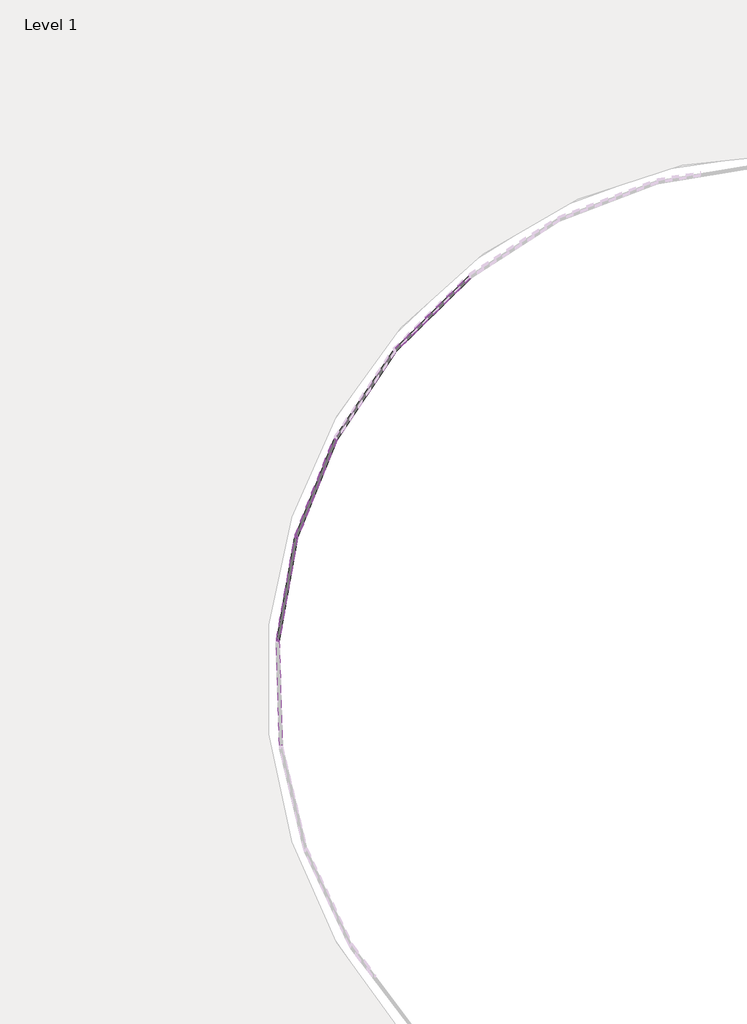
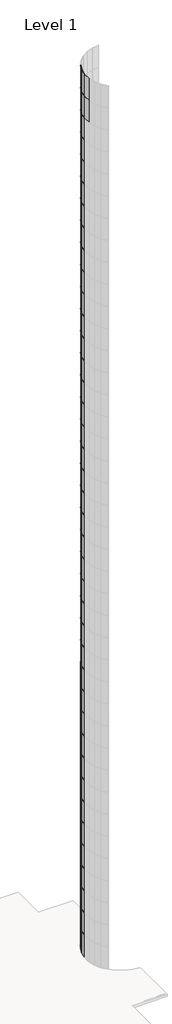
# One storey, part 12 of 19: 129 plates.
"""IFC4 building model written with IfcOpenShell, lengths in millimetres."""

from ifc_helpers import new_model, si_unit, origin, place, context, project, spatial, transform, mapped, element, save
from components import system_panel_glazed_d77d1ebf

model = new_model("IFC4")

# Units and contexts
model_context = context("Model", 3, world=origin())
ifc_project = project(units=[si_unit("LENGTHUNIT", "METRE", prefix="MILLI")], contexts=[model_context])

# Site, building, storey
site = spatial("IfcSite", under=ifc_project)
building = spatial("IfcBuilding", under=site)
storey = spatial("IfcBuildingStorey", under=building, Name="Level 1", Elevation=0.0)

# Plates
placement = place(None, origin())
system_panel_glazed_shape = system_panel_glazed_d77d1ebf(model_context)
element("IfcPlate", 1, ObjectType="System Panel : Glazed", at=placement, inside=storey, context=model_context, shape_type="MappedRepresentation", body=[
    mapped(system_panel_glazed_shape, transform((15654.787077, -3034.0456569, 0.0), x_axis=(-0.7128959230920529, -0.701269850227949, 0.0), y_axis=(0.701269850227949, -0.7128959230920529, 0.0), z_axis=(0.0, 0.0, 1.0))),
])
element("IfcPlate", 2, ObjectType="System Panel : Glazed", at=placement, inside=storey, context=model_context, shape_type="MappedRepresentation", body=[
    mapped(system_panel_glazed_shape, transform((15654.787077, -3034.0456569, 3048.0), x_axis=(-0.7128959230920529, -0.701269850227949, 0.0), y_axis=(0.701269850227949, -0.7128959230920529, 0.0), z_axis=(0.0, 0.0, 1.0))),
])
element("IfcPlate", 3, ObjectType="System Panel : Glazed", at=placement, inside=storey, context=model_context, shape_type="MappedRepresentation", body=[
    mapped(system_panel_glazed_shape, transform((15654.787077, -3034.0456569, 6096.0), x_axis=(-0.7128959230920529, -0.701269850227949, 0.0), y_axis=(0.701269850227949, -0.7128959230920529, 0.0), z_axis=(0.0, 0.0, 1.0))),
])
element("IfcPlate", 4, ObjectType="System Panel : Glazed", at=placement, inside=storey, context=model_context, shape_type="MappedRepresentation", body=[
    mapped(system_panel_glazed_shape, transform((15654.787077, -3034.0456569, 9144.0), x_axis=(-0.7128959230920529, -0.701269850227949, 0.0), y_axis=(0.701269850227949, -0.7128959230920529, 0.0), z_axis=(0.0, 0.0, 1.0))),
])
element("IfcPlate", 5, ObjectType="System Panel : Glazed", at=placement, inside=storey, context=model_context, shape_type="MappedRepresentation", body=[
    mapped(system_panel_glazed_shape, transform((15654.787077, -3034.0456569, 12192.0), x_axis=(-0.7128959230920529, -0.701269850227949, 0.0), y_axis=(0.701269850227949, -0.7128959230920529, 0.0), z_axis=(0.0, 0.0, 1.0))),
])
element("IfcPlate", 6, ObjectType="System Panel : Glazed", at=placement, inside=storey, context=model_context, shape_type="MappedRepresentation", body=[
    mapped(system_panel_glazed_shape, transform((15654.787077, -3034.0456569, 15240.0), x_axis=(-0.7128959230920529, -0.701269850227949, 0.0), y_axis=(0.701269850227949, -0.7128959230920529, 0.0), z_axis=(0.0, 0.0, 1.0))),
])
element("IfcPlate", 7, ObjectType="System Panel : Glazed", at=placement, inside=storey, context=model_context, shape_type="MappedRepresentation", body=[
    mapped(system_panel_glazed_shape, transform((15654.787077, -3034.0456569, 18288.0), x_axis=(-0.7128959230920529, -0.701269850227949, 0.0), y_axis=(0.701269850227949, -0.7128959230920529, 0.0), z_axis=(0.0, 0.0, 1.0))),
])
element("IfcPlate", 8, ObjectType="System Panel : Glazed", at=placement, inside=storey, context=model_context, shape_type="MappedRepresentation", body=[
    mapped(system_panel_glazed_shape, transform((15654.787077, -3034.0456569, 21336.0), x_axis=(-0.7128959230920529, -0.701269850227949, 0.0), y_axis=(0.701269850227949, -0.7128959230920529, 0.0), z_axis=(0.0, 0.0, 1.0))),
])
element("IfcPlate", 9, ObjectType="System Panel : Glazed", at=placement, inside=storey, context=model_context, shape_type="MappedRepresentation", body=[
    mapped(system_panel_glazed_shape, transform((15654.787077, -3034.0456569, 24384.0), x_axis=(-0.7128959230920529, -0.701269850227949, 0.0), y_axis=(0.701269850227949, -0.7128959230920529, 0.0), z_axis=(0.0, 0.0, 1.0))),
])
element("IfcPlate", 10, ObjectType="System Panel : Glazed", at=placement, inside=storey, context=model_context, shape_type="MappedRepresentation", body=[
    mapped(system_panel_glazed_shape, transform((15654.787077, -3034.0456569, 27432.0), x_axis=(-0.7128959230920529, -0.701269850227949, 0.0), y_axis=(0.701269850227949, -0.7128959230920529, 0.0), z_axis=(0.0, 0.0, 1.0))),
])
element("IfcPlate", 11, ObjectType="System Panel : Glazed", at=placement, inside=storey, context=model_context, shape_type="MappedRepresentation", body=[
    mapped(system_panel_glazed_shape, transform((15654.787077, -3034.0456569, 30480.0), x_axis=(-0.7128959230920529, -0.701269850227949, 0.0), y_axis=(0.701269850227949, -0.7128959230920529, 0.0), z_axis=(0.0, 0.0, 1.0))),
])
element("IfcPlate", 12, ObjectType="System Panel : Glazed", at=placement, inside=storey, context=model_context, shape_type="MappedRepresentation", body=[
    mapped(system_panel_glazed_shape, transform((15654.787077, -3034.0456569, 33528.0), x_axis=(-0.7128959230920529, -0.701269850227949, 0.0), y_axis=(0.701269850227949, -0.7128959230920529, 0.0), z_axis=(0.0, 0.0, 1.0))),
])
element("IfcPlate", 13, ObjectType="System Panel : Glazed", at=placement, inside=storey, context=model_context, shape_type="MappedRepresentation", body=[
    mapped(system_panel_glazed_shape, transform((15654.787077, -3034.0456569, 36576.0), x_axis=(-0.7128959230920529, -0.701269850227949, 0.0), y_axis=(0.701269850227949, -0.7128959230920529, 0.0), z_axis=(0.0, 0.0, 1.0))),
])
element("IfcPlate", 14, ObjectType="System Panel : Glazed", at=placement, inside=storey, context=model_context, shape_type="MappedRepresentation", body=[
    mapped(system_panel_glazed_shape, transform((15654.787077, -3034.0456569, 39624.0), x_axis=(-0.7128959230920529, -0.701269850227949, 0.0), y_axis=(0.701269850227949, -0.7128959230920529, 0.0), z_axis=(0.0, 0.0, 1.0))),
])
element("IfcPlate", 15, ObjectType="System Panel : Glazed", at=placement, inside=storey, context=model_context, shape_type="MappedRepresentation", body=[
    mapped(system_panel_glazed_shape, transform((15654.787077, -3034.0456569, 42672.0), x_axis=(-0.7128959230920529, -0.701269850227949, 0.0), y_axis=(0.701269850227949, -0.7128959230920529, 0.0), z_axis=(0.0, 0.0, 1.0))),
])
element("IfcPlate", 16, ObjectType="System Panel : Glazed", at=placement, inside=storey, context=model_context, shape_type="MappedRepresentation", body=[
    mapped(system_panel_glazed_shape, transform((15654.787077, -3034.0456569, 45720.0), x_axis=(-0.7128959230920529, -0.701269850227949, 0.0), y_axis=(0.701269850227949, -0.7128959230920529, 0.0), z_axis=(0.0, 0.0, 1.0))),
])
element("IfcPlate", 17, ObjectType="System Panel : Glazed", at=placement, inside=storey, context=model_context, shape_type="MappedRepresentation", body=[
    mapped(system_panel_glazed_shape, transform((15654.787077, -3034.0456569, 48768.0), x_axis=(-0.7128959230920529, -0.701269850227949, 0.0), y_axis=(0.701269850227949, -0.7128959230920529, 0.0), z_axis=(0.0, 0.0, 1.0))),
])
element("IfcPlate", 18, ObjectType="System Panel : Glazed", at=placement, inside=storey, context=model_context, shape_type="MappedRepresentation", body=[
    mapped(system_panel_glazed_shape, transform((15654.787077, -3034.0456569, 51816.0), x_axis=(-0.7128959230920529, -0.701269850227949, 0.0), y_axis=(0.701269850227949, -0.7128959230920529, 0.0), z_axis=(0.0, 0.0, 1.0))),
])
element("IfcPlate", 19, ObjectType="System Panel : Glazed", at=placement, inside=storey, context=model_context, shape_type="MappedRepresentation", body=[
    mapped(system_panel_glazed_shape, transform((15654.787077, -3034.0456569, 54864.0), x_axis=(-0.7128959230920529, -0.701269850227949, 0.0), y_axis=(0.701269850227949, -0.7128959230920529, 0.0), z_axis=(0.0, 0.0, 1.0))),
])
element("IfcPlate", 20, ObjectType="System Panel : Glazed", at=placement, inside=storey, context=model_context, shape_type="MappedRepresentation", body=[
    mapped(system_panel_glazed_shape, transform((15654.787077, -3034.0456569, 57912.0), x_axis=(-0.7128959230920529, -0.701269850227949, 0.0), y_axis=(0.701269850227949, -0.7128959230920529, 0.0), z_axis=(0.0, 0.0, 1.0))),
])
element("IfcPlate", 21, ObjectType="System Panel : Glazed", at=placement, inside=storey, context=model_context, shape_type="MappedRepresentation", body=[
    mapped(system_panel_glazed_shape, transform((15654.787077, -3034.0456569, 60960.0), x_axis=(-0.7128959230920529, -0.701269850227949, 0.0), y_axis=(0.701269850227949, -0.7128959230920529, 0.0), z_axis=(0.0, 0.0, 1.0))),
])
element("IfcPlate", 22, ObjectType="System Panel : Glazed", at=placement, inside=storey, context=model_context, shape_type="MappedRepresentation", body=[
    mapped(system_panel_glazed_shape, transform((15654.787077, -3034.0456569, 64008.0), x_axis=(-0.7128959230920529, -0.701269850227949, 0.0), y_axis=(0.701269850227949, -0.7128959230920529, 0.0), z_axis=(0.0, 0.0, 1.0))),
])
element("IfcPlate", 23, ObjectType="System Panel : Glazed", at=placement, inside=storey, context=model_context, shape_type="MappedRepresentation", body=[
    mapped(system_panel_glazed_shape, transform((15654.787077, -3034.0456569, 67056.0), x_axis=(-0.7128959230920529, -0.701269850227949, 0.0), y_axis=(0.701269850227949, -0.7128959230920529, 0.0), z_axis=(0.0, 0.0, 1.0))),
])
element("IfcPlate", 24, ObjectType="System Panel : Glazed", at=placement, inside=storey, context=model_context, shape_type="MappedRepresentation", body=[
    mapped(system_panel_glazed_shape, transform((15654.787077, -3034.0456569, 70104.0), x_axis=(-0.7128959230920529, -0.701269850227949, 0.0), y_axis=(0.701269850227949, -0.7128959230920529, 0.0), z_axis=(0.0, 0.0, 1.0))),
])
element("IfcPlate", 25, ObjectType="System Panel : Glazed", at=placement, inside=storey, context=model_context, shape_type="MappedRepresentation", body=[
    mapped(system_panel_glazed_shape, transform((15654.787077, -3034.0456569, 73152.0), x_axis=(-0.7128959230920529, -0.701269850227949, 0.0), y_axis=(0.701269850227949, -0.7128959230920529, 0.0), z_axis=(0.0, 0.0, 1.0))),
])
element("IfcPlate", 26, ObjectType="System Panel : Glazed", at=placement, inside=storey, context=model_context, shape_type="MappedRepresentation", body=[
    mapped(system_panel_glazed_shape, transform((15654.787077, -3034.0456569, 76200.0), x_axis=(-0.7128959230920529, -0.701269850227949, 0.0), y_axis=(0.701269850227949, -0.7128959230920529, 0.0), z_axis=(0.0, 0.0, 1.0))),
])
element("IfcPlate", 27, ObjectType="System Panel : Glazed", at=placement, inside=storey, context=model_context, shape_type="MappedRepresentation", body=[
    mapped(system_panel_glazed_shape, transform((15654.787077, -3034.0456569, 79248.0), x_axis=(-0.7128959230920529, -0.701269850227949, 0.0), y_axis=(0.701269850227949, -0.7128959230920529, 0.0), z_axis=(0.0, 0.0, 1.0))),
])
element("IfcPlate", 28, ObjectType="System Panel : Glazed", at=placement, inside=storey, context=model_context, shape_type="MappedRepresentation", body=[
    mapped(system_panel_glazed_shape, transform((15654.787077, -3034.0456569, 82296.0), x_axis=(-0.7128959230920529, -0.701269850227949, 0.0), y_axis=(0.701269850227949, -0.7128959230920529, 0.0), z_axis=(0.0, 0.0, 1.0))),
])
element("IfcPlate", 29, ObjectType="System Panel : Glazed", at=placement, inside=storey, context=model_context, shape_type="MappedRepresentation", body=[
    mapped(system_panel_glazed_shape, transform((15654.787077, -3034.0456569, 85344.0), x_axis=(-0.7128959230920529, -0.701269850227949, 0.0), y_axis=(0.701269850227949, -0.7128959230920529, 0.0), z_axis=(0.0, 0.0, 1.0))),
])
element("IfcPlate", 30, ObjectType="System Panel : Glazed", at=placement, inside=storey, context=model_context, shape_type="MappedRepresentation", body=[
    mapped(system_panel_glazed_shape, transform((15654.787077, -3034.0456569, 88392.0), x_axis=(-0.7128959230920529, -0.701269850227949, 0.0), y_axis=(0.701269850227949, -0.7128959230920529, 0.0), z_axis=(0.0, 0.0, 1.0))),
])
element("IfcPlate", 31, ObjectType="System Panel : Glazed", at=placement, inside=storey, context=model_context, shape_type="MappedRepresentation", body=[
    mapped(system_panel_glazed_shape, transform((15654.787077, -3034.0456569, 91440.0), x_axis=(-0.7128959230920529, -0.701269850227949, 0.0), y_axis=(0.701269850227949, -0.7128959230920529, 0.0), z_axis=(0.0, 0.0, 1.0))),
])
element("IfcPlate", 32, ObjectType="System Panel : Glazed", at=placement, inside=storey, context=model_context, shape_type="MappedRepresentation", body=[
    mapped(system_panel_glazed_shape, transform((15654.787077, -3034.0456569, 94488.0), x_axis=(-0.7128959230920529, -0.701269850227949, 0.0), y_axis=(0.701269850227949, -0.7128959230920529, 0.0), z_axis=(0.0, 0.0, 1.0))),
])
element("IfcPlate", 33, ObjectType="System Panel : Glazed", at=placement, inside=storey, context=model_context, shape_type="MappedRepresentation", body=[
    mapped(system_panel_glazed_shape, transform((15654.787077, -3034.0456569, 97536.0), x_axis=(-0.7128959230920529, -0.701269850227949, 0.0), y_axis=(0.701269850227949, -0.7128959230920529, 0.0), z_axis=(0.0, 0.0, 1.0))),
])
element("IfcPlate", 34, ObjectType="System Panel : Glazed", at=placement, inside=storey, context=model_context, shape_type="MappedRepresentation", body=[
    mapped(system_panel_glazed_shape, transform((15654.787077, -3034.0456569, 100584.0), x_axis=(-0.7128959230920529, -0.701269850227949, 0.0), y_axis=(0.701269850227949, -0.7128959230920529, 0.0), z_axis=(0.0, 0.0, 1.0))),
])
element("IfcPlate", 35, ObjectType="System Panel : Glazed", at=placement, inside=storey, context=model_context, shape_type="MappedRepresentation", body=[
    mapped(system_panel_glazed_shape, transform((15075.3618251, -3735.1593958, 0.0), x_axis=(-0.5544383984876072, -0.8322247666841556, 0.0), y_axis=(0.8322247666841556, -0.5544383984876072, 0.0), z_axis=(0.0, 0.0, 1.0))),
])
element("IfcPlate", 36, ObjectType="System Panel : Glazed", at=placement, inside=storey, context=model_context, shape_type="MappedRepresentation", body=[
    mapped(system_panel_glazed_shape, transform((15075.3618251, -3735.1593958, 3048.0), x_axis=(-0.5544383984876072, -0.8322247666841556, 0.0), y_axis=(0.8322247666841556, -0.5544383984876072, 0.0), z_axis=(0.0, 0.0, 1.0))),
])
element("IfcPlate", 37, ObjectType="System Panel : Glazed", at=placement, inside=storey, context=model_context, shape_type="MappedRepresentation", body=[
    mapped(system_panel_glazed_shape, transform((15075.3618251, -3735.1593958, 6096.0), x_axis=(-0.5544383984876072, -0.8322247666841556, 0.0), y_axis=(0.8322247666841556, -0.5544383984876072, 0.0), z_axis=(0.0, 0.0, 1.0))),
])
element("IfcPlate", 38, ObjectType="System Panel : Glazed", at=placement, inside=storey, context=model_context, shape_type="MappedRepresentation", body=[
    mapped(system_panel_glazed_shape, transform((15075.3618251, -3735.1593958, 9144.0), x_axis=(-0.5544383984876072, -0.8322247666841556, 0.0), y_axis=(0.8322247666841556, -0.5544383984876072, 0.0), z_axis=(0.0, 0.0, 1.0))),
])
element("IfcPlate", 39, ObjectType="System Panel : Glazed", at=placement, inside=storey, context=model_context, shape_type="MappedRepresentation", body=[
    mapped(system_panel_glazed_shape, transform((15075.3618251, -3735.1593958, 12192.0), x_axis=(-0.5544383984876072, -0.8322247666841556, 0.0), y_axis=(0.8322247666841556, -0.5544383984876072, 0.0), z_axis=(0.0, 0.0, 1.0))),
])
element("IfcPlate", 40, ObjectType="System Panel : Glazed", at=placement, inside=storey, context=model_context, shape_type="MappedRepresentation", body=[
    mapped(system_panel_glazed_shape, transform((15075.3618251, -3735.1593958, 15240.0), x_axis=(-0.5544383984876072, -0.8322247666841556, 0.0), y_axis=(0.8322247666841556, -0.5544383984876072, 0.0), z_axis=(0.0, 0.0, 1.0))),
])
element("IfcPlate", 41, ObjectType="System Panel : Glazed", at=placement, inside=storey, context=model_context, shape_type="MappedRepresentation", body=[
    mapped(system_panel_glazed_shape, transform((15075.3618251, -3735.1593958, 18288.0), x_axis=(-0.5544383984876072, -0.8322247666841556, 0.0), y_axis=(0.8322247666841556, -0.5544383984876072, 0.0), z_axis=(0.0, 0.0, 1.0))),
])
element("IfcPlate", 42, ObjectType="System Panel : Glazed", at=placement, inside=storey, context=model_context, shape_type="MappedRepresentation", body=[
    mapped(system_panel_glazed_shape, transform((15075.3618251, -3735.1593958, 21336.0), x_axis=(-0.5544383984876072, -0.8322247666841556, 0.0), y_axis=(0.8322247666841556, -0.5544383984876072, 0.0), z_axis=(0.0, 0.0, 1.0))),
])
element("IfcPlate", 43, ObjectType="System Panel : Glazed", at=placement, inside=storey, context=model_context, shape_type="MappedRepresentation", body=[
    mapped(system_panel_glazed_shape, transform((15075.3618251, -3735.1593958, 24384.0), x_axis=(-0.5544383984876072, -0.8322247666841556, 0.0), y_axis=(0.8322247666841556, -0.5544383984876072, 0.0), z_axis=(0.0, 0.0, 1.0))),
])
element("IfcPlate", 44, ObjectType="System Panel : Glazed", at=placement, inside=storey, context=model_context, shape_type="MappedRepresentation", body=[
    mapped(system_panel_glazed_shape, transform((15075.3618251, -3735.1593958, 27432.0), x_axis=(-0.5544383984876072, -0.8322247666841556, 0.0), y_axis=(0.8322247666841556, -0.5544383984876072, 0.0), z_axis=(0.0, 0.0, 1.0))),
])
element("IfcPlate", 45, ObjectType="System Panel : Glazed", at=placement, inside=storey, context=model_context, shape_type="MappedRepresentation", body=[
    mapped(system_panel_glazed_shape, transform((15075.3618251, -3735.1593958, 30480.0), x_axis=(-0.5544383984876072, -0.8322247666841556, 0.0), y_axis=(0.8322247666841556, -0.5544383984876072, 0.0), z_axis=(0.0, 0.0, 1.0))),
])
element("IfcPlate", 46, ObjectType="System Panel : Glazed", at=placement, inside=storey, context=model_context, shape_type="MappedRepresentation", body=[
    mapped(system_panel_glazed_shape, transform((15075.3618251, -3735.1593958, 33528.0), x_axis=(-0.5544383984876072, -0.8322247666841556, 0.0), y_axis=(0.8322247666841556, -0.5544383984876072, 0.0), z_axis=(0.0, 0.0, 1.0))),
])
element("IfcPlate", 47, ObjectType="System Panel : Glazed", at=placement, inside=storey, context=model_context, shape_type="MappedRepresentation", body=[
    mapped(system_panel_glazed_shape, transform((15075.3618251, -3735.1593958, 36576.0), x_axis=(-0.5544383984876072, -0.8322247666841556, 0.0), y_axis=(0.8322247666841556, -0.5544383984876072, 0.0), z_axis=(0.0, 0.0, 1.0))),
])
element("IfcPlate", 48, ObjectType="System Panel : Glazed", at=placement, inside=storey, context=model_context, shape_type="MappedRepresentation", body=[
    mapped(system_panel_glazed_shape, transform((14651.5420762, -4539.9394388, 0.0), x_axis=(-0.37255142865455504, -0.9280115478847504, 0.0), y_axis=(0.9280115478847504, -0.372551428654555, 0.0), z_axis=(0.0, 0.0, 1.0))),
])
element("IfcPlate", 49, ObjectType="System Panel : Glazed", at=placement, inside=storey, context=model_context, shape_type="MappedRepresentation", body=[
    mapped(system_panel_glazed_shape, transform((14651.5420762, -4539.9394388, 3048.0), x_axis=(-0.37255142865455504, -0.9280115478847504, 0.0), y_axis=(0.9280115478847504, -0.372551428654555, 0.0), z_axis=(0.0, 0.0, 1.0))),
])
element("IfcPlate", 50, ObjectType="System Panel : Glazed", at=placement, inside=storey, context=model_context, shape_type="MappedRepresentation", body=[
    mapped(system_panel_glazed_shape, transform((14651.5420762, -4539.9394388, 6096.0), x_axis=(-0.37255142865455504, -0.9280115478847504, 0.0), y_axis=(0.9280115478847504, -0.372551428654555, 0.0), z_axis=(0.0, 0.0, 1.0))),
])
element("IfcPlate", 51, ObjectType="System Panel : Glazed", at=placement, inside=storey, context=model_context, shape_type="MappedRepresentation", body=[
    mapped(system_panel_glazed_shape, transform((14651.5420762, -4539.9394388, 9144.0), x_axis=(-0.37255142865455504, -0.9280115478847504, 0.0), y_axis=(0.9280115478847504, -0.372551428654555, 0.0), z_axis=(0.0, 0.0, 1.0))),
])
element("IfcPlate", 52, ObjectType="System Panel : Glazed", at=placement, inside=storey, context=model_context, shape_type="MappedRepresentation", body=[
    mapped(system_panel_glazed_shape, transform((14651.5420762, -4539.9394388, 12192.0), x_axis=(-0.37255142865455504, -0.9280115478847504, 0.0), y_axis=(0.9280115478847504, -0.372551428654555, 0.0), z_axis=(0.0, 0.0, 1.0))),
])
element("IfcPlate", 53, ObjectType="System Panel : Glazed", at=placement, inside=storey, context=model_context, shape_type="MappedRepresentation", body=[
    mapped(system_panel_glazed_shape, transform((14651.5420762, -4539.9394388, 15240.0), x_axis=(-0.37255142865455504, -0.9280115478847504, 0.0), y_axis=(0.9280115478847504, -0.372551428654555, 0.0), z_axis=(0.0, 0.0, 1.0))),
])
element("IfcPlate", 54, ObjectType="System Panel : Glazed", at=placement, inside=storey, context=model_context, shape_type="MappedRepresentation", body=[
    mapped(system_panel_glazed_shape, transform((14651.5420762, -4539.9394388, 18288.0), x_axis=(-0.37255142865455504, -0.9280115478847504, 0.0), y_axis=(0.9280115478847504, -0.372551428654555, 0.0), z_axis=(0.0, 0.0, 1.0))),
])
element("IfcPlate", 55, ObjectType="System Panel : Glazed", at=placement, inside=storey, context=model_context, shape_type="MappedRepresentation", body=[
    mapped(system_panel_glazed_shape, transform((14651.5420762, -4539.9394388, 21336.0), x_axis=(-0.37255142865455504, -0.9280115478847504, 0.0), y_axis=(0.9280115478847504, -0.372551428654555, 0.0), z_axis=(0.0, 0.0, 1.0))),
])
element("IfcPlate", 56, ObjectType="System Panel : Glazed", at=placement, inside=storey, context=model_context, shape_type="MappedRepresentation", body=[
    mapped(system_panel_glazed_shape, transform((14651.5420762, -4539.9394388, 24384.0), x_axis=(-0.37255142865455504, -0.9280115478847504, 0.0), y_axis=(0.9280115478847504, -0.372551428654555, 0.0), z_axis=(0.0, 0.0, 1.0))),
])
element("IfcPlate", 57, ObjectType="System Panel : Glazed", at=placement, inside=storey, context=model_context, shape_type="MappedRepresentation", body=[
    mapped(system_panel_glazed_shape, transform((14651.5420762, -4539.9394388, 27432.0), x_axis=(-0.37255142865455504, -0.9280115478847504, 0.0), y_axis=(0.9280115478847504, -0.372551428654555, 0.0), z_axis=(0.0, 0.0, 1.0))),
])
element("IfcPlate", 58, ObjectType="System Panel : Glazed", at=placement, inside=storey, context=model_context, shape_type="MappedRepresentation", body=[
    mapped(system_panel_glazed_shape, transform((14651.5420762, -4539.9394388, 30480.0), x_axis=(-0.37255142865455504, -0.9280115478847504, 0.0), y_axis=(0.9280115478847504, -0.372551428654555, 0.0), z_axis=(0.0, 0.0, 1.0))),
])
element("IfcPlate", 59, ObjectType="System Panel : Glazed", at=placement, inside=storey, context=model_context, shape_type="MappedRepresentation", body=[
    mapped(system_panel_glazed_shape, transform((14651.5420762, -4539.9394388, 33528.0), x_axis=(-0.37255142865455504, -0.9280115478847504, 0.0), y_axis=(0.9280115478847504, -0.372551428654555, 0.0), z_axis=(0.0, 0.0, 1.0))),
])
element("IfcPlate", 60, ObjectType="System Panel : Glazed", at=placement, inside=storey, context=model_context, shape_type="MappedRepresentation", body=[
    mapped(system_panel_glazed_shape, transform((14651.5420762, -4539.9394388, 36576.0), x_axis=(-0.37255142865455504, -0.9280115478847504, 0.0), y_axis=(0.9280115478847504, -0.372551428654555, 0.0), z_axis=(0.0, 0.0, 1.0))),
])
element("IfcPlate", 61, ObjectType="System Panel : Glazed", at=placement, inside=storey, context=model_context, shape_type="MappedRepresentation", body=[
    mapped(system_panel_glazed_shape, transform((14651.5420762, -4539.9394388, 39624.0), x_axis=(-0.37255142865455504, -0.9280115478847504, 0.0), y_axis=(0.9280115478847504, -0.372551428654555, 0.0), z_axis=(0.0, 0.0, 1.0))),
])
element("IfcPlate", 62, ObjectType="System Panel : Glazed", at=placement, inside=storey, context=model_context, shape_type="MappedRepresentation", body=[
    mapped(system_panel_glazed_shape, transform((14651.5420762, -4539.9394388, 42672.0), x_axis=(-0.37255142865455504, -0.9280115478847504, 0.0), y_axis=(0.9280115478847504, -0.372551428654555, 0.0), z_axis=(0.0, 0.0, 1.0))),
])
element("IfcPlate", 63, ObjectType="System Panel : Glazed", at=placement, inside=storey, context=model_context, shape_type="MappedRepresentation", body=[
    mapped(system_panel_glazed_shape, transform((14651.5420762, -4539.9394388, 45720.0), x_axis=(-0.37255142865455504, -0.9280115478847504, 0.0), y_axis=(0.9280115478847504, -0.372551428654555, 0.0), z_axis=(0.0, 0.0, 1.0))),
])
element("IfcPlate", 64, ObjectType="System Panel : Glazed", at=placement, inside=storey, context=model_context, shape_type="MappedRepresentation", body=[
    mapped(system_panel_glazed_shape, transform((14651.5420762, -4539.9394388, 48768.0), x_axis=(-0.37255142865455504, -0.9280115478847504, 0.0), y_axis=(0.9280115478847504, -0.372551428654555, 0.0), z_axis=(0.0, 0.0, 1.0))),
])
element("IfcPlate", 65, ObjectType="System Panel : Glazed", at=placement, inside=storey, context=model_context, shape_type="MappedRepresentation", body=[
    mapped(system_panel_glazed_shape, transform((14651.5420762, -4539.9394388, 51816.0), x_axis=(-0.37255142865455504, -0.9280115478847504, 0.0), y_axis=(0.9280115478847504, -0.372551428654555, 0.0), z_axis=(0.0, 0.0, 1.0))),
])
element("IfcPlate", 66, ObjectType="System Panel : Glazed", at=placement, inside=storey, context=model_context, shape_type="MappedRepresentation", body=[
    mapped(system_panel_glazed_shape, transform((14651.5420762, -4539.9394388, 54864.0), x_axis=(-0.37255142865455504, -0.9280115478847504, 0.0), y_axis=(0.9280115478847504, -0.372551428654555, 0.0), z_axis=(0.0, 0.0, 1.0))),
])
element("IfcPlate", 67, ObjectType="System Panel : Glazed", at=placement, inside=storey, context=model_context, shape_type="MappedRepresentation", body=[
    mapped(system_panel_glazed_shape, transform((14651.5420762, -4539.9394388, 57912.0), x_axis=(-0.37255142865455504, -0.9280115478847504, 0.0), y_axis=(0.9280115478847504, -0.372551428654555, 0.0), z_axis=(0.0, 0.0, 1.0))),
])
element("IfcPlate", 68, ObjectType="System Panel : Glazed", at=placement, inside=storey, context=model_context, shape_type="MappedRepresentation", body=[
    mapped(system_panel_glazed_shape, transform((14651.5420762, -4539.9394388, 60960.0), x_axis=(-0.37255142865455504, -0.9280115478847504, 0.0), y_axis=(0.9280115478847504, -0.372551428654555, 0.0), z_axis=(0.0, 0.0, 1.0))),
])
element("IfcPlate", 69, ObjectType="System Panel : Glazed", at=placement, inside=storey, context=model_context, shape_type="MappedRepresentation", body=[
    mapped(system_panel_glazed_shape, transform((14651.5420762, -4539.9394388, 64008.0), x_axis=(-0.37255142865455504, -0.9280115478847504, 0.0), y_axis=(0.9280115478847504, -0.372551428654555, 0.0), z_axis=(0.0, 0.0, 1.0))),
])
element("IfcPlate", 70, ObjectType="System Panel : Glazed", at=placement, inside=storey, context=model_context, shape_type="MappedRepresentation", body=[
    mapped(system_panel_glazed_shape, transform((14651.5420762, -4539.9394388, 67056.0), x_axis=(-0.37255142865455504, -0.9280115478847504, 0.0), y_axis=(0.9280115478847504, -0.372551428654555, 0.0), z_axis=(0.0, 0.0, 1.0))),
])
element("IfcPlate", 71, ObjectType="System Panel : Glazed", at=placement, inside=storey, context=model_context, shape_type="MappedRepresentation", body=[
    mapped(system_panel_glazed_shape, transform((14651.5420762, -4539.9394388, 70104.0), x_axis=(-0.37255142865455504, -0.9280115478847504, 0.0), y_axis=(0.9280115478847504, -0.372551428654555, 0.0), z_axis=(0.0, 0.0, 1.0))),
])
element("IfcPlate", 72, ObjectType="System Panel : Glazed", at=placement, inside=storey, context=model_context, shape_type="MappedRepresentation", body=[
    mapped(system_panel_glazed_shape, transform((14651.5420762, -4539.9394388, 73152.0), x_axis=(-0.37255142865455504, -0.9280115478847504, 0.0), y_axis=(0.9280115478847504, -0.372551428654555, 0.0), z_axis=(0.0, 0.0, 1.0))),
])
element("IfcPlate", 73, ObjectType="System Panel : Glazed", at=placement, inside=storey, context=model_context, shape_type="MappedRepresentation", body=[
    mapped(system_panel_glazed_shape, transform((14651.5420762, -4539.9394388, 76200.0), x_axis=(-0.37255142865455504, -0.9280115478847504, 0.0), y_axis=(0.9280115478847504, -0.372551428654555, 0.0), z_axis=(0.0, 0.0, 1.0))),
])
element("IfcPlate", 74, ObjectType="System Panel : Glazed", at=placement, inside=storey, context=model_context, shape_type="MappedRepresentation", body=[
    mapped(system_panel_glazed_shape, transform((14651.5420762, -4539.9394388, 79248.0), x_axis=(-0.37255142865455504, -0.9280115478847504, 0.0), y_axis=(0.9280115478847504, -0.372551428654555, 0.0), z_axis=(0.0, 0.0, 1.0))),
])
element("IfcPlate", 75, ObjectType="System Panel : Glazed", at=placement, inside=storey, context=model_context, shape_type="MappedRepresentation", body=[
    mapped(system_panel_glazed_shape, transform((14651.5420762, -4539.9394388, 82296.0), x_axis=(-0.37255142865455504, -0.9280115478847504, 0.0), y_axis=(0.9280115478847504, -0.372551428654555, 0.0), z_axis=(0.0, 0.0, 1.0))),
])
element("IfcPlate", 76, ObjectType="System Panel : Glazed", at=placement, inside=storey, context=model_context, shape_type="MappedRepresentation", body=[
    mapped(system_panel_glazed_shape, transform((14651.5420762, -4539.9394388, 85344.0), x_axis=(-0.37255142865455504, -0.9280115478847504, 0.0), y_axis=(0.9280115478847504, -0.372551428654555, 0.0), z_axis=(0.0, 0.0, 1.0))),
])
element("IfcPlate", 77, ObjectType="System Panel : Glazed", at=placement, inside=storey, context=model_context, shape_type="MappedRepresentation", body=[
    mapped(system_panel_glazed_shape, transform((14651.5420762, -4539.9394388, 88392.0), x_axis=(-0.37255142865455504, -0.9280115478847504, 0.0), y_axis=(0.9280115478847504, -0.372551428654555, 0.0), z_axis=(0.0, 0.0, 1.0))),
])
element("IfcPlate", 78, ObjectType="System Panel : Glazed", at=placement, inside=storey, context=model_context, shape_type="MappedRepresentation", body=[
    mapped(system_panel_glazed_shape, transform((14651.5420762, -4539.9394388, 91440.0), x_axis=(-0.37255142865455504, -0.9280115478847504, 0.0), y_axis=(0.9280115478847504, -0.372551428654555, 0.0), z_axis=(0.0, 0.0, 1.0))),
])
element("IfcPlate", 79, ObjectType="System Panel : Glazed", at=placement, inside=storey, context=model_context, shape_type="MappedRepresentation", body=[
    mapped(system_panel_glazed_shape, transform((14651.5420762, -4539.9394388, 94488.0), x_axis=(-0.37255142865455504, -0.9280115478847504, 0.0), y_axis=(0.9280115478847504, -0.372551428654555, 0.0), z_axis=(0.0, 0.0, 1.0))),
])
element("IfcPlate", 80, ObjectType="System Panel : Glazed", at=placement, inside=storey, context=model_context, shape_type="MappedRepresentation", body=[
    mapped(system_panel_glazed_shape, transform((14651.5420762, -4539.9394388, 97536.0), x_axis=(-0.37255142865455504, -0.9280115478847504, 0.0), y_axis=(0.9280115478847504, -0.372551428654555, 0.0), z_axis=(0.0, 0.0, 1.0))),
])
element("IfcPlate", 81, ObjectType="System Panel : Glazed", at=placement, inside=storey, context=model_context, shape_type="MappedRepresentation", body=[
    mapped(system_panel_glazed_shape, transform((14651.5420762, -4539.9394388, 100584.0), x_axis=(-0.37255142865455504, -0.9280115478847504, 0.0), y_axis=(0.9280115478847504, -0.372551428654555, 0.0), z_axis=(0.0, 0.0, 1.0))),
])
element("IfcPlate", 82, ObjectType="System Panel : Glazed", at=placement, inside=storey, context=model_context, shape_type="MappedRepresentation", body=[
    mapped(system_panel_glazed_shape, transform((14401.2375954, -5414.3774092, 0.0), x_axis=(-0.1749211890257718, -0.9845824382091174, 0.0), y_axis=(0.9845824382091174, -0.1749211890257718, 0.0), z_axis=(0.0, 0.0, 1.0))),
])
element("IfcPlate", 83, ObjectType="System Panel : Glazed", at=placement, inside=storey, context=model_context, shape_type="MappedRepresentation", body=[
    mapped(system_panel_glazed_shape, transform((14401.2375954, -5414.3774092, 3048.0), x_axis=(-0.1749211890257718, -0.9845824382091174, 0.0), y_axis=(0.9845824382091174, -0.1749211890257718, 0.0), z_axis=(0.0, 0.0, 1.0))),
])
element("IfcPlate", 84, ObjectType="System Panel : Glazed", at=placement, inside=storey, context=model_context, shape_type="MappedRepresentation", body=[
    mapped(system_panel_glazed_shape, transform((14401.2375954, -5414.3774092, 6096.0), x_axis=(-0.1749211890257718, -0.9845824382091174, 0.0), y_axis=(0.9845824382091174, -0.1749211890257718, 0.0), z_axis=(0.0, 0.0, 1.0))),
])
element("IfcPlate", 85, ObjectType="System Panel : Glazed", at=placement, inside=storey, context=model_context, shape_type="MappedRepresentation", body=[
    mapped(system_panel_glazed_shape, transform((14401.2375954, -5414.3774092, 9144.0), x_axis=(-0.1749211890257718, -0.9845824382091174, 0.0), y_axis=(0.9845824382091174, -0.1749211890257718, 0.0), z_axis=(0.0, 0.0, 1.0))),
])
element("IfcPlate", 86, ObjectType="System Panel : Glazed", at=placement, inside=storey, context=model_context, shape_type="MappedRepresentation", body=[
    mapped(system_panel_glazed_shape, transform((14401.2375954, -5414.3774092, 12192.0), x_axis=(-0.1749211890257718, -0.9845824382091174, 0.0), y_axis=(0.9845824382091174, -0.1749211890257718, 0.0), z_axis=(0.0, 0.0, 1.0))),
])
element("IfcPlate", 87, ObjectType="System Panel : Glazed", at=placement, inside=storey, context=model_context, shape_type="MappedRepresentation", body=[
    mapped(system_panel_glazed_shape, transform((14401.2375954, -5414.3774092, 15240.0), x_axis=(-0.1749211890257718, -0.9845824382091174, 0.0), y_axis=(0.9845824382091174, -0.1749211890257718, 0.0), z_axis=(0.0, 0.0, 1.0))),
])
element("IfcPlate", 88, ObjectType="System Panel : Glazed", at=placement, inside=storey, context=model_context, shape_type="MappedRepresentation", body=[
    mapped(system_panel_glazed_shape, transform((14401.2375954, -5414.3774092, 18288.0), x_axis=(-0.1749211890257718, -0.9845824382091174, 0.0), y_axis=(0.9845824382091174, -0.1749211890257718, 0.0), z_axis=(0.0, 0.0, 1.0))),
])
element("IfcPlate", 89, ObjectType="System Panel : Glazed", at=placement, inside=storey, context=model_context, shape_type="MappedRepresentation", body=[
    mapped(system_panel_glazed_shape, transform((14401.2375954, -5414.3774092, 21336.0), x_axis=(-0.1749211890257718, -0.9845824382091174, 0.0), y_axis=(0.9845824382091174, -0.1749211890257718, 0.0), z_axis=(0.0, 0.0, 1.0))),
])
element("IfcPlate", 90, ObjectType="System Panel : Glazed", at=placement, inside=storey, context=model_context, shape_type="MappedRepresentation", body=[
    mapped(system_panel_glazed_shape, transform((14401.2375954, -5414.3774092, 24384.0), x_axis=(-0.1749211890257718, -0.9845824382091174, 0.0), y_axis=(0.9845824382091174, -0.1749211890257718, 0.0), z_axis=(0.0, 0.0, 1.0))),
])
element("IfcPlate", 91, ObjectType="System Panel : Glazed", at=placement, inside=storey, context=model_context, shape_type="MappedRepresentation", body=[
    mapped(system_panel_glazed_shape, transform((14401.2375954, -5414.3774092, 27432.0), x_axis=(-0.1749211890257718, -0.9845824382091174, 0.0), y_axis=(0.9845824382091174, -0.1749211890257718, 0.0), z_axis=(0.0, 0.0, 1.0))),
])
element("IfcPlate", 92, ObjectType="System Panel : Glazed", at=placement, inside=storey, context=model_context, shape_type="MappedRepresentation", body=[
    mapped(system_panel_glazed_shape, transform((14401.2375954, -5414.3774092, 30480.0), x_axis=(-0.1749211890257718, -0.9845824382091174, 0.0), y_axis=(0.9845824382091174, -0.1749211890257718, 0.0), z_axis=(0.0, 0.0, 1.0))),
])
element("IfcPlate", 93, ObjectType="System Panel : Glazed", at=placement, inside=storey, context=model_context, shape_type="MappedRepresentation", body=[
    mapped(system_panel_glazed_shape, transform((14401.2375954, -5414.3774092, 33528.0), x_axis=(-0.1749211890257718, -0.9845824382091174, 0.0), y_axis=(0.9845824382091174, -0.1749211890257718, 0.0), z_axis=(0.0, 0.0, 1.0))),
])
element("IfcPlate", 94, ObjectType="System Panel : Glazed", at=placement, inside=storey, context=model_context, shape_type="MappedRepresentation", body=[
    mapped(system_panel_glazed_shape, transform((14401.2375954, -5414.3774092, 36576.0), x_axis=(-0.1749211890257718, -0.9845824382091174, 0.0), y_axis=(0.9845824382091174, -0.1749211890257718, 0.0), z_axis=(0.0, 0.0, 1.0))),
])
element("IfcPlate", 95, ObjectType="System Panel : Glazed", at=placement, inside=storey, context=model_context, shape_type="MappedRepresentation", body=[
    mapped(system_panel_glazed_shape, transform((14401.2375954, -5414.3774092, 39624.0), x_axis=(-0.1749211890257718, -0.9845824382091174, 0.0), y_axis=(0.9845824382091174, -0.1749211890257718, 0.0), z_axis=(0.0, 0.0, 1.0))),
])
element("IfcPlate", 96, ObjectType="System Panel : Glazed", at=placement, inside=storey, context=model_context, shape_type="MappedRepresentation", body=[
    mapped(system_panel_glazed_shape, transform((14401.2375954, -5414.3774092, 42672.0), x_axis=(-0.1749211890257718, -0.9845824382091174, 0.0), y_axis=(0.9845824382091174, -0.1749211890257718, 0.0), z_axis=(0.0, 0.0, 1.0))),
])
element("IfcPlate", 97, ObjectType="System Panel : Glazed", at=placement, inside=storey, context=model_context, shape_type="MappedRepresentation", body=[
    mapped(system_panel_glazed_shape, transform((14401.2375954, -5414.3774092, 45720.0), x_axis=(-0.1749211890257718, -0.9845824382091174, 0.0), y_axis=(0.9845824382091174, -0.1749211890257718, 0.0), z_axis=(0.0, 0.0, 1.0))),
])
element("IfcPlate", 98, ObjectType="System Panel : Glazed", at=placement, inside=storey, context=model_context, shape_type="MappedRepresentation", body=[
    mapped(system_panel_glazed_shape, transform((14401.2375954, -5414.3774092, 48768.0), x_axis=(-0.1749211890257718, -0.9845824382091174, 0.0), y_axis=(0.9845824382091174, -0.1749211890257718, 0.0), z_axis=(0.0, 0.0, 1.0))),
])
element("IfcPlate", 99, ObjectType="System Panel : Glazed", at=placement, inside=storey, context=model_context, shape_type="MappedRepresentation", body=[
    mapped(system_panel_glazed_shape, transform((14401.2375954, -5414.3774092, 51816.0), x_axis=(-0.1749211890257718, -0.9845824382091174, 0.0), y_axis=(0.9845824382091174, -0.1749211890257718, 0.0), z_axis=(0.0, 0.0, 1.0))),
])
element("IfcPlate", 100, ObjectType="System Panel : Glazed", at=placement, inside=storey, context=model_context, shape_type="MappedRepresentation", body=[
    mapped(system_panel_glazed_shape, transform((14401.2375954, -5414.3774092, 54864.0), x_axis=(-0.1749211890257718, -0.9845824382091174, 0.0), y_axis=(0.9845824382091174, -0.1749211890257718, 0.0), z_axis=(0.0, 0.0, 1.0))),
])
element("IfcPlate", 101, ObjectType="System Panel : Glazed", at=placement, inside=storey, context=model_context, shape_type="MappedRepresentation", body=[
    mapped(system_panel_glazed_shape, transform((14401.2375954, -5414.3774092, 57912.0), x_axis=(-0.1749211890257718, -0.9845824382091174, 0.0), y_axis=(0.9845824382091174, -0.1749211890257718, 0.0), z_axis=(0.0, 0.0, 1.0))),
])
element("IfcPlate", 102, ObjectType="System Panel : Glazed", at=placement, inside=storey, context=model_context, shape_type="MappedRepresentation", body=[
    mapped(system_panel_glazed_shape, transform((14401.2375954, -5414.3774092, 60960.0), x_axis=(-0.1749211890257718, -0.9845824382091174, 0.0), y_axis=(0.9845824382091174, -0.1749211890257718, 0.0), z_axis=(0.0, 0.0, 1.0))),
])
element("IfcPlate", 103, ObjectType="System Panel : Glazed", at=placement, inside=storey, context=model_context, shape_type="MappedRepresentation", body=[
    mapped(system_panel_glazed_shape, transform((14401.2375954, -5414.3774092, 64008.0), x_axis=(-0.1749211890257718, -0.9845824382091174, 0.0), y_axis=(0.9845824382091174, -0.1749211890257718, 0.0), z_axis=(0.0, 0.0, 1.0))),
])
element("IfcPlate", 104, ObjectType="System Panel : Glazed", at=placement, inside=storey, context=model_context, shape_type="MappedRepresentation", body=[
    mapped(system_panel_glazed_shape, transform((14401.2375954, -5414.3774092, 67056.0), x_axis=(-0.1749211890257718, -0.9845824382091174, 0.0), y_axis=(0.9845824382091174, -0.1749211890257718, 0.0), z_axis=(0.0, 0.0, 1.0))),
])
element("IfcPlate", 105, ObjectType="System Panel : Glazed", at=placement, inside=storey, context=model_context, shape_type="MappedRepresentation", body=[
    mapped(system_panel_glazed_shape, transform((14401.2375954, -5414.3774092, 70104.0), x_axis=(-0.1749211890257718, -0.9845824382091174, 0.0), y_axis=(0.9845824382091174, -0.1749211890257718, 0.0), z_axis=(0.0, 0.0, 1.0))),
])
element("IfcPlate", 106, ObjectType="System Panel : Glazed", at=placement, inside=storey, context=model_context, shape_type="MappedRepresentation", body=[
    mapped(system_panel_glazed_shape, transform((14401.2375954, -5414.3774092, 73152.0), x_axis=(-0.1749211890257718, -0.9845824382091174, 0.0), y_axis=(0.9845824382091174, -0.1749211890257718, 0.0), z_axis=(0.0, 0.0, 1.0))),
])
element("IfcPlate", 107, ObjectType="System Panel : Glazed", at=placement, inside=storey, context=model_context, shape_type="MappedRepresentation", body=[
    mapped(system_panel_glazed_shape, transform((14401.2375954, -5414.3774092, 76200.0), x_axis=(-0.1749211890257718, -0.9845824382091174, 0.0), y_axis=(0.9845824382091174, -0.1749211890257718, 0.0), z_axis=(0.0, 0.0, 1.0))),
])
element("IfcPlate", 108, ObjectType="System Panel : Glazed", at=placement, inside=storey, context=model_context, shape_type="MappedRepresentation", body=[
    mapped(system_panel_glazed_shape, transform((14401.2375954, -5414.3774092, 79248.0), x_axis=(-0.1749211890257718, -0.9845824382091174, 0.0), y_axis=(0.9845824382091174, -0.1749211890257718, 0.0), z_axis=(0.0, 0.0, 1.0))),
])
element("IfcPlate", 109, ObjectType="System Panel : Glazed", at=placement, inside=storey, context=model_context, shape_type="MappedRepresentation", body=[
    mapped(system_panel_glazed_shape, transform((14401.2375954, -5414.3774092, 82296.0), x_axis=(-0.1749211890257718, -0.9845824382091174, 0.0), y_axis=(0.9845824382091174, -0.1749211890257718, 0.0), z_axis=(0.0, 0.0, 1.0))),
])
element("IfcPlate", 110, ObjectType="System Panel : Glazed", at=placement, inside=storey, context=model_context, shape_type="MappedRepresentation", body=[
    mapped(system_panel_glazed_shape, transform((14401.2375954, -5414.3774092, 85344.0), x_axis=(-0.1749211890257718, -0.9845824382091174, 0.0), y_axis=(0.9845824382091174, -0.1749211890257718, 0.0), z_axis=(0.0, 0.0, 1.0))),
])
element("IfcPlate", 111, ObjectType="System Panel : Glazed", at=placement, inside=storey, context=model_context, shape_type="MappedRepresentation", body=[
    mapped(system_panel_glazed_shape, transform((14401.2375954, -5414.3774092, 88392.0), x_axis=(-0.1749211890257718, -0.9845824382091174, 0.0), y_axis=(0.9845824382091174, -0.1749211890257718, 0.0), z_axis=(0.0, 0.0, 1.0))),
])
element("IfcPlate", 112, ObjectType="System Panel : Glazed", at=placement, inside=storey, context=model_context, shape_type="MappedRepresentation", body=[
    mapped(system_panel_glazed_shape, transform((14401.2375954, -5414.3774092, 91440.0), x_axis=(-0.1749211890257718, -0.9845824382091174, 0.0), y_axis=(0.9845824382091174, -0.1749211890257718, 0.0), z_axis=(0.0, 0.0, 1.0))),
])
element("IfcPlate", 113, ObjectType="System Panel : Glazed", at=placement, inside=storey, context=model_context, shape_type="MappedRepresentation", body=[
    mapped(system_panel_glazed_shape, transform((14401.2375954, -5414.3774092, 94488.0), x_axis=(-0.1749211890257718, -0.9845824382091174, 0.0), y_axis=(0.9845824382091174, -0.1749211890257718, 0.0), z_axis=(0.0, 0.0, 1.0))),
])
element("IfcPlate", 114, ObjectType="System Panel : Glazed", at=placement, inside=storey, context=model_context, shape_type="MappedRepresentation", body=[
    mapped(system_panel_glazed_shape, transform((14401.2375954, -5414.3774092, 97536.0), x_axis=(-0.1749211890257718, -0.9845824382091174, 0.0), y_axis=(0.9845824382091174, -0.1749211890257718, 0.0), z_axis=(0.0, 0.0, 1.0))),
])
element("IfcPlate", 115, ObjectType="System Panel : Glazed", at=placement, inside=storey, context=model_context, shape_type="MappedRepresentation", body=[
    mapped(system_panel_glazed_shape, transform((14401.2375954, -5414.3774092, 100584.0), x_axis=(-0.1749211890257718, -0.9845824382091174, 0.0), y_axis=(0.9845824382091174, -0.1749211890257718, 0.0), z_axis=(0.0, 0.0, 1.0))),
])
element("IfcPlate", 116, ObjectType="System Panel : Glazed", at=placement, inside=storey, context=model_context, shape_type="MappedRepresentation", body=[
    mapped(system_panel_glazed_shape, transform((14651.5420762, -4539.9394388, 103632.0), x_axis=(-0.37255142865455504, -0.9280115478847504, 0.0), y_axis=(0.9280115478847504, -0.372551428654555, 0.0), z_axis=(0.0, 0.0, 1.0))),
])
element("IfcPlate", 117, ObjectType="System Panel : Glazed", at=placement, inside=storey, context=model_context, shape_type="MappedRepresentation", body=[
    mapped(system_panel_glazed_shape, transform((14401.2375954, -5414.3774092, 103632.0), x_axis=(-0.1749211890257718, -0.9845824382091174, 0.0), y_axis=(0.9845824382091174, -0.1749211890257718, 0.0), z_axis=(0.0, 0.0, 1.0))),
])
element("IfcPlate", 118, ObjectType="System Panel : Glazed", at=placement, inside=storey, context=model_context, shape_type="MappedRepresentation", body=[
    mapped(system_panel_glazed_shape, transform((14651.5420762, -4539.9394388, 106680.0), x_axis=(-0.37255142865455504, -0.9280115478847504, 0.0), y_axis=(0.9280115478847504, -0.372551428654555, 0.0), z_axis=(0.0, 0.0, 1.0))),
])
element("IfcPlate", 119, ObjectType="System Panel : Glazed", at=placement, inside=storey, context=model_context, shape_type="MappedRepresentation", body=[
    mapped(system_panel_glazed_shape, transform((14401.2375954, -5414.3774092, 106680.0), x_axis=(-0.1749211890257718, -0.9845824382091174, 0.0), y_axis=(0.9845824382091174, -0.1749211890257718, 0.0), z_axis=(0.0, 0.0, 1.0))),
])
element("IfcPlate", 120, ObjectType="System Panel : Glazed", at=placement, inside=storey, context=model_context, shape_type="MappedRepresentation", body=[
    mapped(system_panel_glazed_shape, transform((14651.5420762, -4539.9394388, 109728.0), x_axis=(-0.37255142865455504, -0.9280115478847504, 0.0), y_axis=(0.9280115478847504, -0.372551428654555, 0.0), z_axis=(0.0, 0.0, 1.0))),
])
element("IfcPlate", 121, ObjectType="System Panel : Glazed", at=placement, inside=storey, context=model_context, shape_type="MappedRepresentation", body=[
    mapped(system_panel_glazed_shape, transform((14401.2375954, -5414.3774092, 109728.0), x_axis=(-0.1749211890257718, -0.9845824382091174, 0.0), y_axis=(0.9845824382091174, -0.1749211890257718, 0.0), z_axis=(0.0, 0.0, 1.0))),
])
element("IfcPlate", 122, ObjectType="System Panel : Glazed", at=placement, inside=storey, context=model_context, shape_type="MappedRepresentation", body=[
    mapped(system_panel_glazed_shape, transform((14651.5420762, -4539.9394388, 112776.0), x_axis=(-0.37255142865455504, -0.9280115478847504, 0.0), y_axis=(0.9280115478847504, -0.372551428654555, 0.0), z_axis=(0.0, 0.0, 1.0))),
])
element("IfcPlate", 123, ObjectType="System Panel : Glazed", at=placement, inside=storey, context=model_context, shape_type="MappedRepresentation", body=[
    mapped(system_panel_glazed_shape, transform((14401.2375954, -5414.3774092, 112776.0), x_axis=(-0.1749211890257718, -0.9845824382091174, 0.0), y_axis=(0.9845824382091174, -0.1749211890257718, 0.0), z_axis=(0.0, 0.0, 1.0))),
])
element("IfcPlate", 124, ObjectType="System Panel : Glazed", at=placement, inside=storey, context=model_context, shape_type="MappedRepresentation", body=[
    mapped(system_panel_glazed_shape, transform((14651.5420762, -4539.9394388, 115824.0), x_axis=(-0.37255142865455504, -0.9280115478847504, 0.0), y_axis=(0.9280115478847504, -0.372551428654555, 0.0), z_axis=(0.0, 0.0, 1.0))),
])
element("IfcPlate", 125, ObjectType="System Panel : Glazed", at=placement, inside=storey, context=model_context, shape_type="MappedRepresentation", body=[
    mapped(system_panel_glazed_shape, transform((14401.2375954, -5414.3774092, 115824.0), x_axis=(-0.1749211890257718, -0.9845824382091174, 0.0), y_axis=(0.9845824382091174, -0.1749211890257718, 0.0), z_axis=(0.0, 0.0, 1.0))),
])
element("IfcPlate", 126, ObjectType="System Panel : Glazed", at=placement, inside=storey, context=model_context, shape_type="MappedRepresentation", body=[
    mapped(system_panel_glazed_shape, transform((14335.0257438, -6321.5213272, 115824.0), x_axis=(0.030100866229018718, -0.9995468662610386, 0.0), y_axis=(0.9995468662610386, 0.030100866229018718, 0.0), z_axis=(0.0, 0.0, 1.0))),
])
element("IfcPlate", 127, ObjectType="System Panel : Glazed", at=placement, inside=storey, context=model_context, shape_type="MappedRepresentation", body=[
    mapped(system_panel_glazed_shape, transform((14651.5420762, -4539.9394388, 118872.0), x_axis=(-0.37255142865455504, -0.9280115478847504, 0.0), y_axis=(0.9280115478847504, -0.372551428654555, 0.0), z_axis=(0.0, 0.0, 1.0))),
])
element("IfcPlate", 128, ObjectType="System Panel : Glazed", at=placement, inside=storey, context=model_context, shape_type="MappedRepresentation", body=[
    mapped(system_panel_glazed_shape, transform((14401.2375954, -5414.3774092, 118872.0), x_axis=(-0.1749211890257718, -0.9845824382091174, 0.0), y_axis=(0.9845824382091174, -0.1749211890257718, 0.0), z_axis=(0.0, 0.0, 1.0))),
])
element("IfcPlate", 129, ObjectType="System Panel : Glazed", at=placement, inside=storey, context=model_context, shape_type="MappedRepresentation", body=[
    mapped(system_panel_glazed_shape, transform((14335.0257438, -6321.5213272, 118872.0), x_axis=(0.030100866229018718, -0.9995468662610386, 0.0), y_axis=(0.9995468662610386, 0.030100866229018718, 0.0), z_axis=(0.0, 0.0, 1.0))),
])

save(model, "model.ifc")
